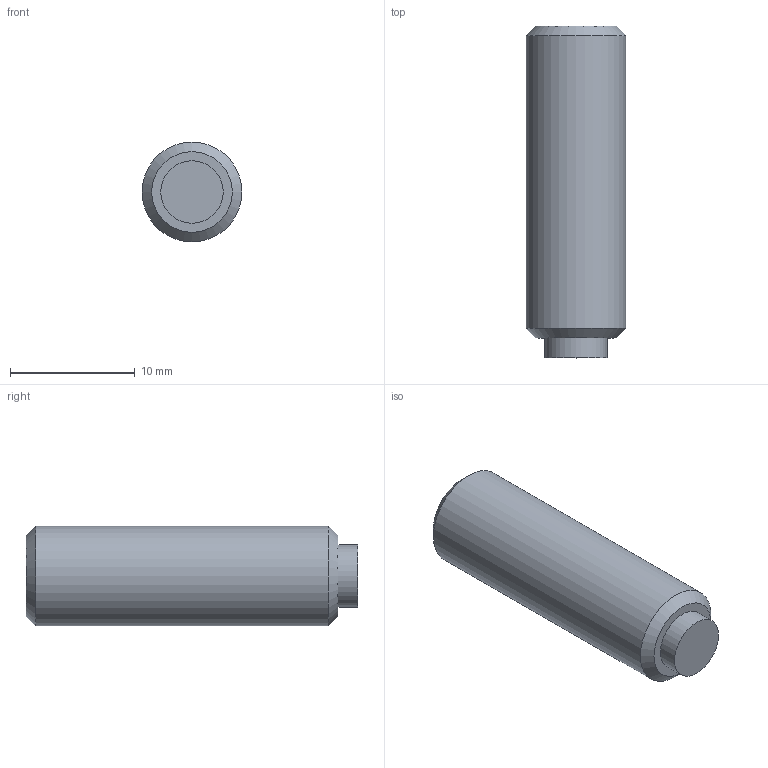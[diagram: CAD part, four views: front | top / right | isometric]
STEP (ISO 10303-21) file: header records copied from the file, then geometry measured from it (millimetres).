
FILE_DESCRIPTION( ( 'STEP AP203' ), '1' );
FILE_NAME( 'C:/Temp/Ganter_Step_05_03_2020/data/3_2/gn913_3/Grub screw GN 913.3-M8-25-KU.stp', '2020-03-13T05:35:38', ( 'License CC BY-ND 4.0' ), ( 'CADENAS' ), ' ', 'PARTsolutions', ' ' );
FILE_SCHEMA( ( 'CONFIG_CONTROL_DESIGN' ) );
Length unit declared in the file: millimetre
Products named in the file (1): _Grub screw GN 913.3-M8-25-KU
Bounding box: 8 x 26.6 x 8 mm (x, y, z)
Volume: 1204.9 mm3; surface area: 799.1 mm2
Topology: 1 solids, 1 shells, 14 faces, 28 edges, 18 vertices
Faces by surface type: plane 10, cylinder 2, cone 2
Full cylindrical faces by diameter (mm): 5 x1, 8 x1
Entity records: 386 total; most frequent: DIRECTION 60, CARTESIAN_POINT 57, ORIENTED_EDGE 48, EDGE_CURVE 24, AXIS2_PLACEMENT_3D 21, EDGE_LOOP 20, VERTEX_POINT 18, LINE 18
